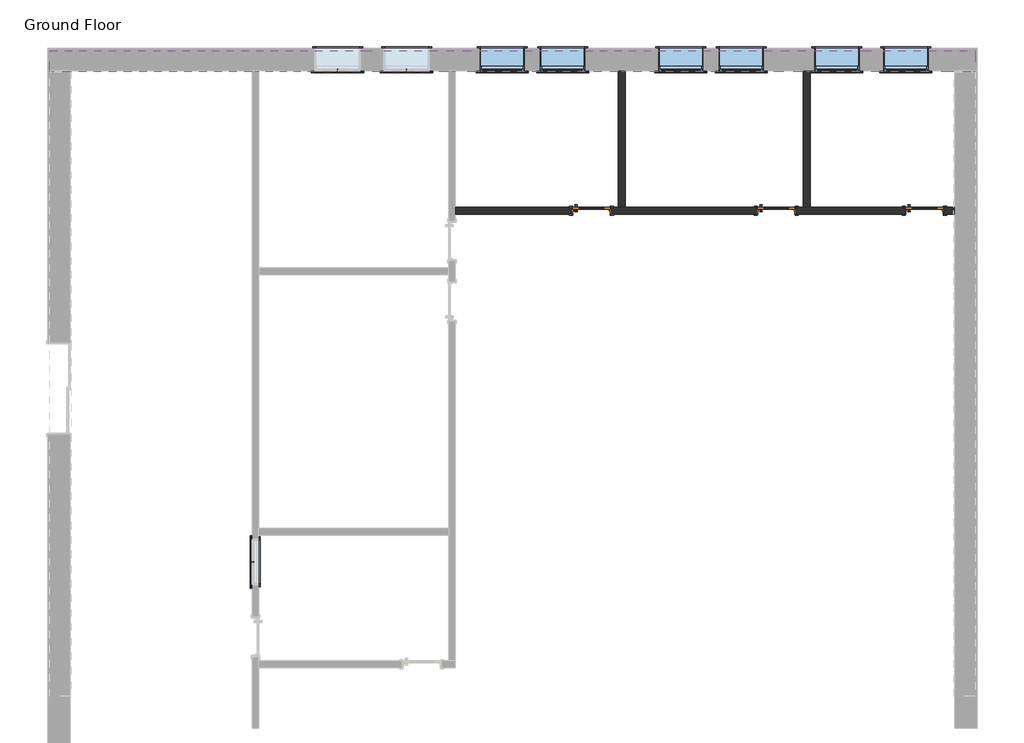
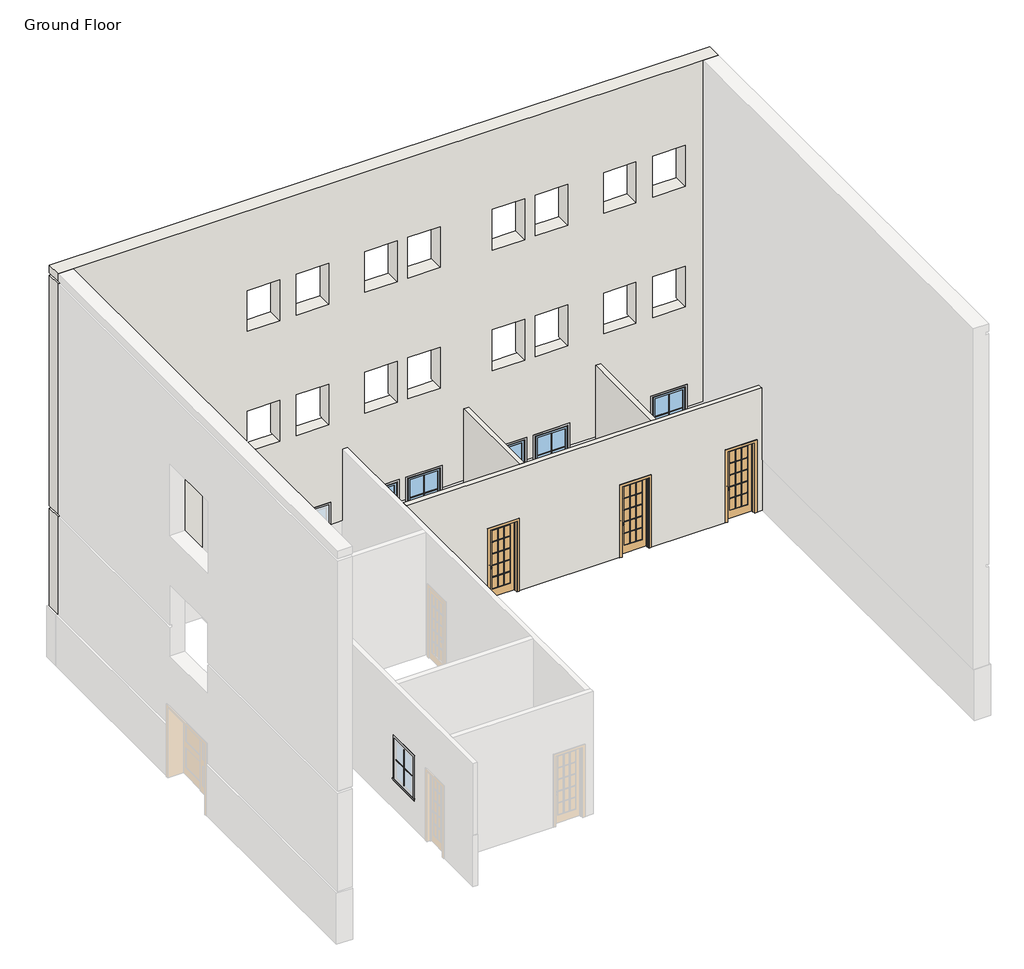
# One storey, part 2 of 2: 27 proxies, 6 windows, 4 walls, 3 doors.
"""IFC4 building model written with IfcOpenShell, lengths in millimetres."""

from ifc_helpers import new_model, si_unit, frame, origin, place, context, project, spatial, polyline, outline, extrude, faceted_brep, transform, mapped, element, save
from components import muntin_pattern_2x2_muntin_pattern_2x2_49331bd8, muntin_pattern_2x2_muntin_pattern_2x2_a8e7a107, trim_window_exterior_flat_with_sill_cdc255b3, trim_window_exterior_flat_with_sill_0ab60cae, trim_window_interior_flat_picture_frame_ab41cb78, trim_window_interior_flat_picture_frame_2efe6088, m_door_interior_single_full_glass_wood_750_x_2100mm_ded28596, window_awning_single_915_x_1220_66c2d390, window_awning_single_915_x_1220_806fc205

model = new_model("IFC4")

# Units and contexts
model_context = context("Model", 3, world=origin())
ifc_project = project(units=[si_unit("LENGTHUNIT", "METRE", prefix="MILLI")], contexts=[model_context])

# Site, building, storey
site = spatial("IfcSite", under=ifc_project)
building = spatial("IfcBuilding", under=site)
storey = spatial("IfcBuildingStorey", under=building, Name="Ground Floor", Elevation=0.0)

# Proxies
placement = place(None, origin())
muntin_pattern_2x2_muntin_pattern_2x2_shape = muntin_pattern_2x2_muntin_pattern_2x2_49331bd8(model_context)
element("IfcBuildingElementProxy", 1, Name="Muntin Pattern_2x2 : Muntin Pattern_2x2", ObjectType="Muntin Pattern_2x2 : Muntin Pattern_2x2", at=placement, inside=storey, context=model_context, shape_type="MappedRepresentation", body=[
    mapped(muntin_pattern_2x2_muntin_pattern_2x2_shape, transform((-13370.5350037, -4799.4136534, 984.25), x_axis=(0.0, 1.0, 0.0), y_axis=(-1.0, 0.0, 0.0), z_axis=(0.0, 0.0, 1.0))),
])
element("IfcBuildingElementProxy", 2, Name="Muntin Pattern_2x2 : Muntin Pattern_2x2", ObjectType="Muntin Pattern_2x2 : Muntin Pattern_2x2", at=placement, inside=storey, context=model_context, shape_type="MappedRepresentation", body=[
    mapped(muntin_pattern_2x2_muntin_pattern_2x2_shape, transform((-1590.3100037, 5107.7613466, 984.25), x_axis=(-1.0, 0.0, 0.0), y_axis=(0.0, -1.0, 0.0), z_axis=(0.0, 0.0, 1.0))),
])
element("IfcBuildingElementProxy", 3, Name="Muntin Pattern_2x2 : Muntin Pattern_2x2", ObjectType="Muntin Pattern_2x2 : Muntin Pattern_2x2", at=placement, inside=storey, context=model_context, shape_type="MappedRepresentation", body=[
    mapped(muntin_pattern_2x2_muntin_pattern_2x2_shape, transform((-198.934993, 5107.7613466, 984.25), x_axis=(-1.0, 0.0, 0.0), y_axis=(0.0, -1.0, 0.0), z_axis=(0.0, 0.0, 1.0))),
])
element("IfcBuildingElementProxy", 4, Name="Muntin Pattern_2x2 : Muntin Pattern_2x2", ObjectType="Muntin Pattern_2x2 : Muntin Pattern_2x2", at=placement, inside=storey, context=model_context, shape_type="MappedRepresentation", body=[
    mapped(muntin_pattern_2x2_muntin_pattern_2x2_shape, transform((-3517.3100037, 5107.7613466, 984.25), x_axis=(-1.0, 0.0, 0.0), y_axis=(0.0, -1.0, 0.0), z_axis=(0.0, 0.0, 1.0))),
])
element("IfcBuildingElementProxy", 5, Name="Muntin Pattern_2x2 : Muntin Pattern_2x2", ObjectType="Muntin Pattern_2x2 : Muntin Pattern_2x2", at=placement, inside=storey, context=model_context, shape_type="MappedRepresentation", body=[
    mapped(muntin_pattern_2x2_muntin_pattern_2x2_shape, transform((-4736.5100037, 5107.7613466, 984.25), x_axis=(-1.0, 0.0, 0.0), y_axis=(0.0, -1.0, 0.0), z_axis=(0.0, 0.0, 1.0))),
])
muntin_pattern_2x2_muntin_pattern_2x2_2_shape = muntin_pattern_2x2_muntin_pattern_2x2_a8e7a107(model_context)
element("IfcBuildingElementProxy", 6, Name="Muntin Pattern_2x2 : Muntin Pattern_2x2", ObjectType="Muntin Pattern_2x2 : Muntin Pattern_2x2", at=placement, inside=storey, context=model_context, shape_type="MappedRepresentation", body=[
    mapped(muntin_pattern_2x2_muntin_pattern_2x2_2_shape, transform((-10263.2100037, 5107.7613466, 984.25), x_axis=(1.0, 0.0, 0.0), y_axis=(0.0, 1.0, 0.0), z_axis=(0.0, 0.0, 1.0))),
])
element("IfcBuildingElementProxy", 7, Name="Muntin Pattern_2x2 : Muntin Pattern_2x2", ObjectType="Muntin Pattern_2x2 : Muntin Pattern_2x2", at=placement, inside=storey, context=model_context, shape_type="MappedRepresentation", body=[
    mapped(muntin_pattern_2x2_muntin_pattern_2x2_2_shape, transform((-11654.5850143, 5107.7613466, 984.25), x_axis=(1.0, 0.0, 0.0), y_axis=(0.0, 1.0, 0.0), z_axis=(0.0, 0.0, 1.0))),
])
element("IfcBuildingElementProxy", 8, Name="Muntin Pattern_2x2 : Muntin Pattern_2x2", ObjectType="Muntin Pattern_2x2 : Muntin Pattern_2x2", at=placement, inside=storey, context=model_context, shape_type="MappedRepresentation", body=[
    mapped(muntin_pattern_2x2_muntin_pattern_2x2_2_shape, transform((-8336.2100037, 5107.7613466, 984.25), x_axis=(1.0, 0.0, 0.0), y_axis=(0.0, 1.0, 0.0), z_axis=(0.0, 0.0, 1.0))),
])
element("IfcBuildingElementProxy", 9, Name="Muntin Pattern_2x2 : Muntin Pattern_2x2", ObjectType="Muntin Pattern_2x2 : Muntin Pattern_2x2", at=placement, inside=storey, context=model_context, shape_type="MappedRepresentation", body=[
    mapped(muntin_pattern_2x2_muntin_pattern_2x2_2_shape, transform((-7117.0100037, 5107.7613466, 984.25), x_axis=(1.0, 0.0, 0.0), y_axis=(0.0, 1.0, 0.0), z_axis=(0.0, 0.0, 1.0))),
])
trim_window_exterior_flat_with_sill_shape = trim_window_exterior_flat_with_sill_cdc255b3(model_context)
element("IfcBuildingElementProxy", 10, Name="Trim-Window-Exterior-Flat : with Sill", ObjectType="Trim-Window-Exterior-Flat : with Sill", at=placement, inside=storey, context=model_context, shape_type="MappedRepresentation", body=[
    mapped(trim_window_exterior_flat_with_sill_shape, transform((-13380.0600037, -4799.4136534, 2134.4), x_axis=(0.0, -1.0, 0.0), y_axis=(0.0, 0.0, 1.0), z_axis=(-1.0, 0.0, 0.0))),
])
element("IfcBuildingElementProxy", 11, Name="Trim-Window-Exterior-Flat : with Sill", ObjectType="Trim-Window-Exterior-Flat : with Sill", at=placement, inside=storey, context=model_context, shape_type="MappedRepresentation", body=[
    mapped(trim_window_exterior_flat_with_sill_shape, transform((-1590.3100037, 5098.2363466, 2134.4), x_axis=(1.0, 0.0, 0.0), y_axis=(0.0, 0.0, 1.0), z_axis=(0.0, -1.0, 0.0))),
])
element("IfcBuildingElementProxy", 12, Name="Trim-Window-Exterior-Flat : with Sill", ObjectType="Trim-Window-Exterior-Flat : with Sill", at=placement, inside=storey, context=model_context, shape_type="MappedRepresentation", body=[
    mapped(trim_window_exterior_flat_with_sill_shape, transform((-198.934993, 5098.2363466, 2134.4), x_axis=(1.0, 0.0, 0.0), y_axis=(0.0, 0.0, 1.0), z_axis=(0.0, -1.0, 0.0))),
])
element("IfcBuildingElementProxy", 13, Name="Trim-Window-Exterior-Flat : with Sill", ObjectType="Trim-Window-Exterior-Flat : with Sill", at=placement, inside=storey, context=model_context, shape_type="MappedRepresentation", body=[
    mapped(trim_window_exterior_flat_with_sill_shape, transform((-3517.3100037, 5098.2363466, 2134.4), x_axis=(1.0, 0.0, 0.0), y_axis=(0.0, 0.0, 1.0), z_axis=(0.0, -1.0, 0.0))),
])
element("IfcBuildingElementProxy", 14, Name="Trim-Window-Exterior-Flat : with Sill", ObjectType="Trim-Window-Exterior-Flat : with Sill", at=placement, inside=storey, context=model_context, shape_type="MappedRepresentation", body=[
    mapped(trim_window_exterior_flat_with_sill_shape, transform((-4736.5100037, 5098.2363466, 2134.4), x_axis=(1.0, 0.0, 0.0), y_axis=(0.0, 0.0, 1.0), z_axis=(0.0, -1.0, 0.0))),
])
trim_window_exterior_flat_with_sill_2_shape = trim_window_exterior_flat_with_sill_0ab60cae(model_context)
element("IfcBuildingElementProxy", 15, Name="Trim-Window-Exterior-Flat : with Sill", ObjectType="Trim-Window-Exterior-Flat : with Sill", at=placement, inside=storey, context=model_context, shape_type="MappedRepresentation", body=[
    mapped(trim_window_exterior_flat_with_sill_2_shape, transform((-10263.2100037, 5098.2363466, 2134.4), x_axis=(-1.0, 0.0, 0.0), y_axis=(0.0, 0.0, -1.0), z_axis=(0.0, -1.0, 0.0))),
])
element("IfcBuildingElementProxy", 16, Name="Trim-Window-Exterior-Flat : with Sill", ObjectType="Trim-Window-Exterior-Flat : with Sill", at=placement, inside=storey, context=model_context, shape_type="MappedRepresentation", body=[
    mapped(trim_window_exterior_flat_with_sill_2_shape, transform((-11654.5850143, 5098.2363466, 2134.4), x_axis=(-1.0, 0.0, 0.0), y_axis=(0.0, 0.0, -1.0), z_axis=(0.0, -1.0, 0.0))),
])
element("IfcBuildingElementProxy", 17, Name="Trim-Window-Exterior-Flat : with Sill", ObjectType="Trim-Window-Exterior-Flat : with Sill", at=placement, inside=storey, context=model_context, shape_type="MappedRepresentation", body=[
    mapped(trim_window_exterior_flat_with_sill_2_shape, transform((-8336.2100037, 5098.2363466, 2134.4), x_axis=(-1.0, 0.0, 0.0), y_axis=(0.0, 0.0, -1.0), z_axis=(0.0, -1.0, 0.0))),
])
element("IfcBuildingElementProxy", 18, Name="Trim-Window-Exterior-Flat : with Sill", ObjectType="Trim-Window-Exterior-Flat : with Sill", at=placement, inside=storey, context=model_context, shape_type="MappedRepresentation", body=[
    mapped(trim_window_exterior_flat_with_sill_2_shape, transform((-7117.0100037, 5098.2363466, 2134.4), x_axis=(-1.0, 0.0, 0.0), y_axis=(0.0, 0.0, -1.0), z_axis=(0.0, -1.0, 0.0))),
])
trim_window_interior_flat_picture_frame_shape = trim_window_interior_flat_picture_frame_ab41cb78(model_context)
element("IfcBuildingElementProxy", 19, Name="Trim-Window-Interior-Flat : Picture Frame", ObjectType="Trim-Window-Interior-Flat : Picture Frame", at=placement, inside=storey, context=model_context, shape_type="MappedRepresentation", body=[
    mapped(trim_window_interior_flat_picture_frame_shape, transform((-13241.5600037, -4799.4136534, 2134.4), x_axis=(0.0, 1.0, 0.0), y_axis=(0.0, 0.0, 1.0), z_axis=(1.0, 0.0, 0.0))),
])
element("IfcBuildingElementProxy", 20, Name="Trim-Window-Interior-Flat : Picture Frame", ObjectType="Trim-Window-Interior-Flat : Picture Frame", at=placement, inside=storey, context=model_context, shape_type="MappedRepresentation", body=[
    mapped(trim_window_interior_flat_picture_frame_shape, transform((-1590.3100037, 5558.2363466, 2134.4), x_axis=(-1.0, 0.0, 0.0), y_axis=(0.0, 0.0, 1.0), z_axis=(0.0, 1.0, 0.0))),
])
element("IfcBuildingElementProxy", 21, Name="Trim-Window-Interior-Flat : Picture Frame", ObjectType="Trim-Window-Interior-Flat : Picture Frame", at=placement, inside=storey, context=model_context, shape_type="MappedRepresentation", body=[
    mapped(trim_window_interior_flat_picture_frame_shape, transform((-198.934993, 5558.2363466, 2134.4), x_axis=(-1.0, 0.0, 0.0), y_axis=(0.0, 0.0, 1.0), z_axis=(0.0, 1.0, 0.0))),
])
element("IfcBuildingElementProxy", 22, Name="Trim-Window-Interior-Flat : Picture Frame", ObjectType="Trim-Window-Interior-Flat : Picture Frame", at=placement, inside=storey, context=model_context, shape_type="MappedRepresentation", body=[
    mapped(trim_window_interior_flat_picture_frame_shape, transform((-3517.3100037, 5558.2363466, 2134.4), x_axis=(-1.0, 0.0, 0.0), y_axis=(0.0, 0.0, 1.0), z_axis=(0.0, 1.0, 0.0))),
])
element("IfcBuildingElementProxy", 23, Name="Trim-Window-Interior-Flat : Picture Frame", ObjectType="Trim-Window-Interior-Flat : Picture Frame", at=placement, inside=storey, context=model_context, shape_type="MappedRepresentation", body=[
    mapped(trim_window_interior_flat_picture_frame_shape, transform((-4736.5100037, 5558.2363466, 2134.4), x_axis=(-1.0, 0.0, 0.0), y_axis=(0.0, 0.0, 1.0), z_axis=(0.0, 1.0, 0.0))),
])
trim_window_interior_flat_picture_frame_2_shape = trim_window_interior_flat_picture_frame_2efe6088(model_context)
element("IfcBuildingElementProxy", 24, Name="Trim-Window-Interior-Flat : Picture Frame", ObjectType="Trim-Window-Interior-Flat : Picture Frame", at=placement, inside=storey, context=model_context, shape_type="MappedRepresentation", body=[
    mapped(trim_window_interior_flat_picture_frame_2_shape, transform((-10263.2100037, 5558.2363466, 2134.4), x_axis=(1.0, 0.0, 0.0), y_axis=(0.0, 0.0, -1.0), z_axis=(0.0, 1.0, 0.0))),
])
element("IfcBuildingElementProxy", 25, Name="Trim-Window-Interior-Flat : Picture Frame", ObjectType="Trim-Window-Interior-Flat : Picture Frame", at=placement, inside=storey, context=model_context, shape_type="MappedRepresentation", body=[
    mapped(trim_window_interior_flat_picture_frame_2_shape, transform((-11654.5850143, 5558.2363466, 2134.4), x_axis=(1.0, 0.0, 0.0), y_axis=(0.0, 0.0, -1.0), z_axis=(0.0, 1.0, 0.0))),
])
element("IfcBuildingElementProxy", 26, Name="Trim-Window-Interior-Flat : Picture Frame", ObjectType="Trim-Window-Interior-Flat : Picture Frame", at=placement, inside=storey, context=model_context, shape_type="MappedRepresentation", body=[
    mapped(trim_window_interior_flat_picture_frame_2_shape, transform((-8336.2100037, 5558.2363466, 2134.4), x_axis=(1.0, 0.0, 0.0), y_axis=(0.0, 0.0, -1.0), z_axis=(0.0, 1.0, 0.0))),
])
element("IfcBuildingElementProxy", 27, Name="Trim-Window-Interior-Flat : Picture Frame", ObjectType="Trim-Window-Interior-Flat : Picture Frame", at=placement, inside=storey, context=model_context, shape_type="MappedRepresentation", body=[
    mapped(trim_window_interior_flat_picture_frame_2_shape, transform((-7117.0100037, 5558.2363466, 2134.4), x_axis=(1.0, 0.0, 0.0), y_axis=(0.0, 0.0, -1.0), z_axis=(0.0, 1.0, 0.0))),
])

# Doors
m_door_interior_single_full_glass_wood_750_x_2100mm_shape = m_door_interior_single_full_glass_wood_750_x_2100mm_ded28596(model_context)
element("IfcDoor", 28, ObjectType="M_Door-Interior-Single-Full Glass-Wood : 750 x 2100mm", at=placement, inside=storey, context=model_context, shape_type="MappedRepresentation", body=[
    mapped(m_door_interior_single_full_glass_wood_750_x_2100mm_shape, transform((-6536.3600037, 2283.4113466, 0.0), x_axis=(1.0, 0.0, 0.0), y_axis=(0.0, 1.0, 0.0), z_axis=(0.0, 0.0, 1.0))),
])
element("IfcDoor", 29, ObjectType="M_Door-Interior-Single-Full Glass-Wood : 750 x 2100mm", at=placement, inside=storey, context=model_context, shape_type="MappedRepresentation", body=[
    mapped(m_door_interior_single_full_glass_wood_750_x_2100mm_shape, transform((-2809.5100037, 2283.4113466, 0.0), x_axis=(1.0, 0.0, 0.0), y_axis=(0.0, 1.0, 0.0), z_axis=(0.0, 0.0, 1.0))),
])
element("IfcDoor", 30, ObjectType="M_Door-Interior-Single-Full Glass-Wood : 750 x 2100mm", at=placement, inside=storey, context=model_context, shape_type="MappedRepresentation", body=[
    mapped(m_door_interior_single_full_glass_wood_750_x_2100mm_shape, transform((175.5899963, 2283.4113466, 0.0), x_axis=(1.0, 0.0, 0.0), y_axis=(0.0, 1.0, 0.0), z_axis=(0.0, 0.0, 1.0))),
])

# Walls
element("IfcWall", 31, ObjectType="Exterior - Render on Brick on Block", at=placement, inside=storey, context=model_context, shape_type="Brep", body=[
    faceted_brep([(1196.1899963, 5080.2363466, 11700.0), (767.1899963, 5080.2363466, 11700.0), (-17024.8100037, 5080.2363466, 11700.0), (-17453.8100037, 5080.2363466, 11700.0), (-17453.8100037, 5080.2363466, 11475.0), (-17378.8100037, 5080.2363466, 11475.0), (-17378.8100037, 5080.2363466, 11400.0), (-17453.8100037, 5080.2363466, 11400.0), (-17453.8100037, 5080.2363466, 4524.0), (-17378.8100037, 5080.2363466, 4524.0), (-17378.8100037, 5080.2363466, 4449.0), (-17453.8100037, 5080.2363466, 4449.0), (-17453.8100037, 5080.2363466, 1524.0), (-17024.8100037, 5080.2363466, 1524.0), (-13380.0600037, 5080.2363466, 1524.0), (-13241.5600037, 5080.2363466, 1524.0), (-12112.0850143, 5080.2363466, 1524.0), (-12112.0850143, 5080.2363466, 2134.4), (-11197.0850143, 5080.2363466, 2134.4), (-11197.0850143, 5080.2363466, 1524.0), (-10720.7100037, 5080.2363466, 1524.0), (-10720.7100037, 5080.2363466, 2134.4), (-9805.7100037, 5080.2363466, 2134.4), (-9805.7100037, 5080.2363466, 1524.0), (-9418.0600037, 5080.2363466, 1524.0), (-9279.5600037, 5080.2363466, 1524.0), (-8793.7100037, 5080.2363466, 1524.0), (-8793.7100037, 5080.2363466, 2134.4), (-7878.7100037, 5080.2363466, 2134.4), (-7878.7100037, 5080.2363466, 1524.0), (-7574.5100037, 5080.2363466, 1524.0), (-7574.5100037, 5080.2363466, 2134.4), (-6659.5100037, 5080.2363466, 2134.4), (-6659.5100037, 5080.2363466, 1524.0), (-5996.0100037, 5080.2363466, 1524.0), (-5857.5100037, 5080.2363466, 1524.0), (-5194.0100037, 5080.2363466, 1524.0), (-5194.0100037, 5080.2363466, 2134.4), (-4279.0100037, 5080.2363466, 2134.4), (-4279.0100037, 5080.2363466, 1524.0), (-3974.8100037, 5080.2363466, 1524.0), (-3974.8100037, 5080.2363466, 2134.4), (-3059.8100037, 5080.2363466, 2134.4), (-3059.8100037, 5080.2363466, 1524.0), (-2269.1600037, 5080.2363466, 1524.0), (-2130.6600037, 5080.2363466, 1524.0), (-2047.8100037, 5080.2363466, 1524.0), (-2047.8100037, 5080.2363466, 2134.4), (-1132.8100037, 5080.2363466, 2134.4), (-1132.8100037, 5080.2363466, 1524.0), (-656.434993, 5080.2363466, 1524.0), (-656.434993, 5080.2363466, 2134.4), (258.565007, 5080.2363466, 2134.4), (258.565007, 5080.2363466, 1524.0), (767.1899963, 5080.2363466, 1524.0), (1196.1899963, 5080.2363466, 1524.0), (1196.1899963, 5080.2363466, 4449.0), (1121.1899963, 5080.2363466, 4449.0), (1121.1899963, 5080.2363466, 4524.0), (1196.1899963, 5080.2363466, 4524.0), (1196.1899963, 5080.2363466, 11400.0), (1121.1899963, 5080.2363466, 11400.0), (1121.1899963, 5080.2363466, 11475.0), (1196.1899963, 5080.2363466, 11475.0), (-6659.5100037, 5080.2363466, 5734.4), (-6659.5100037, 5080.2363466, 4514.4), (-7574.5100037, 5080.2363466, 4514.4), (-7574.5100037, 5080.2363466, 5734.4), (-7878.7100037, 5080.2363466, 5734.4), (-7878.7100037, 5080.2363466, 4514.4), (-8793.7100037, 5080.2363466, 4514.4), (-8793.7100037, 5080.2363466, 5734.4), (-11197.0850143, 5080.2363466, 5734.4), (-11197.0850143, 5080.2363466, 4514.4), (-12112.0850143, 5080.2363466, 4514.4), (-12112.0850143, 5080.2363466, 5734.4), (-9805.7100037, 5080.2363466, 5734.4), (-9805.7100037, 5080.2363466, 4514.4), (-10720.7100037, 5080.2363466, 4514.4), (-10720.7100037, 5080.2363466, 5734.4), (-5194.0100037, 5080.2363466, 4514.4), (-5194.0100037, 5080.2363466, 5734.4), (-4279.0100037, 5080.2363466, 5734.4), (-4279.0100037, 5080.2363466, 4514.4), (-3974.8100037, 5080.2363466, 4514.4), (-3974.8100037, 5080.2363466, 5734.4), (-3059.8100037, 5080.2363466, 5734.4), (-3059.8100037, 5080.2363466, 4514.4), (-656.434993, 5080.2363466, 4514.4), (-656.434993, 5080.2363466, 5734.4), (258.565007, 5080.2363466, 5734.4), (258.565007, 5080.2363466, 4514.4), (-2047.8100037, 5080.2363466, 4514.4), (-2047.8100037, 5080.2363466, 5734.4), (-1132.8100037, 5080.2363466, 5734.4), (-1132.8100037, 5080.2363466, 4514.4), (-6659.5100037, 5080.2363466, 9334.4), (-6659.5100037, 5080.2363466, 8114.4), (-7574.5100037, 5080.2363466, 8114.4), (-7574.5100037, 5080.2363466, 9334.4), (-7878.7100037, 5080.2363466, 9334.4), (-7878.7100037, 5080.2363466, 8114.4), (-8793.7100037, 5080.2363466, 8114.4), (-8793.7100037, 5080.2363466, 9334.4), (-11197.0850143, 5080.2363466, 9334.4), (-11197.0850143, 5080.2363466, 8114.4), (-12112.0850143, 5080.2363466, 8114.4), (-12112.0850143, 5080.2363466, 9334.4), (-9805.7100037, 5080.2363466, 9334.4), (-9805.7100037, 5080.2363466, 8114.4), (-10720.7100037, 5080.2363466, 8114.4), (-10720.7100037, 5080.2363466, 9334.4), (-5194.0100037, 5080.2363466, 8114.4), (-5194.0100037, 5080.2363466, 9334.4), (-4279.0100037, 5080.2363466, 9334.4), (-4279.0100037, 5080.2363466, 8114.4), (-3974.8100037, 5080.2363466, 8114.4), (-3974.8100037, 5080.2363466, 9334.4), (-3059.8100037, 5080.2363466, 9334.4), (-3059.8100037, 5080.2363466, 8114.4), (-656.434993, 5080.2363466, 8114.4), (-656.434993, 5080.2363466, 9334.4), (258.565007, 5080.2363466, 9334.4), (258.565007, 5080.2363466, 8114.4), (-2047.8100037, 5080.2363466, 8114.4), (-2047.8100037, 5080.2363466, 9334.4), (-1132.8100037, 5080.2363466, 9334.4), (-1132.8100037, 5080.2363466, 8114.4), (-17453.8100037, 5509.2363466, 11700.0), (1196.1899963, 5509.2363466, 11700.0), (1196.1899963, 5509.2363466, 11475.0), (-17453.8100037, 5509.2363466, 11475.0), (-2047.8100037, 5509.2363466, 2134.4), (-2047.8100037, 5509.2363466, 1524.0), (-3059.8100037, 5509.2363466, 1524.0), (-3059.8100037, 5509.2363466, 2134.4), (-3974.8100037, 5509.2363466, 2134.4), (-3974.8100037, 5509.2363466, 1524.0), (-4279.0100037, 5509.2363466, 1524.0), (-4279.0100037, 5509.2363466, 2134.4), (-5194.0100037, 5509.2363466, 2134.4), (-5194.0100037, 5509.2363466, 1524.0), (-6659.5100037, 5509.2363466, 1524.0), (-6659.5100037, 5509.2363466, 2134.4), (-7574.5100037, 5509.2363466, 2134.4), (-7574.5100037, 5509.2363466, 1524.0), (-7878.7100037, 5509.2363466, 1524.0), (-7878.7100037, 5509.2363466, 2134.4), (-8793.7100037, 5509.2363466, 2134.4), (-8793.7100037, 5509.2363466, 1524.0), (-9805.7100037, 5509.2363466, 1524.0), (-9805.7100037, 5509.2363466, 2134.4), (-10720.7100037, 5509.2363466, 2134.4), (-10720.7100037, 5509.2363466, 1524.0), (-11197.0850143, 5509.2363466, 1524.0), (-11197.0850143, 5509.2363466, 2134.4), (-12112.0850143, 5509.2363466, 2134.4), (-12112.0850143, 5509.2363466, 1524.0), (-17453.8100037, 5509.2363466, 1524.0), (-17453.8100037, 5509.2363466, 4449.0), (1196.1899963, 5509.2363466, 4449.0), (1196.1899963, 5509.2363466, 1524.0), (258.565007, 5509.2363466, 1524.0), (258.565007, 5509.2363466, 2134.4), (-656.434993, 5509.2363466, 2134.4), (-656.434993, 5509.2363466, 1524.0), (-1132.8100037, 5509.2363466, 1524.0), (-1132.8100037, 5509.2363466, 2134.4), (1196.1899963, 5509.2363466, 4524.0), (258.565007, 5509.2363466, 4524.0), (258.565007, 5509.2363466, 5734.4), (-656.434993, 5509.2363466, 5734.4), (-656.434993, 5509.2363466, 4524.0), (-1132.8100037, 5509.2363466, 4524.0), (-1132.8100037, 5509.2363466, 5734.4), (-2047.8100037, 5509.2363466, 5734.4), (-2047.8100037, 5509.2363466, 4524.0), (-3059.8100037, 5509.2363466, 4524.0), (-3059.8100037, 5509.2363466, 5734.4), (-3974.8100037, 5509.2363466, 5734.4), (-3974.8100037, 5509.2363466, 4524.0), (-4279.0100037, 5509.2363466, 4524.0), (-4279.0100037, 5509.2363466, 5734.4), (-5194.0100037, 5509.2363466, 5734.4), (-5194.0100037, 5509.2363466, 4524.0), (-6659.5100037, 5509.2363466, 4524.0), (-6659.5100037, 5509.2363466, 5734.4), (-7574.5100037, 5509.2363466, 5734.4), (-7574.5100037, 5509.2363466, 4524.0), (-7878.7100037, 5509.2363466, 4524.0), (-7878.7100037, 5509.2363466, 5734.4), (-8793.7100037, 5509.2363466, 5734.4), (-8793.7100037, 5509.2363466, 4524.0), (-9805.7100037, 5509.2363466, 4524.0), (-9805.7100037, 5509.2363466, 5734.4), (-10720.7100037, 5509.2363466, 5734.4), (-10720.7100037, 5509.2363466, 4524.0), (-11197.0850143, 5509.2363466, 4524.0), (-11197.0850143, 5509.2363466, 5734.4), (-12112.0850143, 5509.2363466, 5734.4), (-12112.0850143, 5509.2363466, 4524.0), (-17453.8100037, 5509.2363466, 4524.0), (-17453.8100037, 5509.2363466, 11400.0), (1196.1899963, 5509.2363466, 11400.0), (-6659.5100037, 5509.2363466, 8114.4), (-6659.5100037, 5509.2363466, 9334.4), (-7574.5100037, 5509.2363466, 9334.4), (-7574.5100037, 5509.2363466, 8114.4), (-7878.7100037, 5509.2363466, 8114.4), (-7878.7100037, 5509.2363466, 9334.4), (-8793.7100037, 5509.2363466, 9334.4), (-8793.7100037, 5509.2363466, 8114.4), (-11197.0850143, 5509.2363466, 8114.4), (-11197.0850143, 5509.2363466, 9334.4), (-12112.0850143, 5509.2363466, 9334.4), (-12112.0850143, 5509.2363466, 8114.4), (-9805.7100037, 5509.2363466, 8114.4), (-9805.7100037, 5509.2363466, 9334.4), (-10720.7100037, 5509.2363466, 9334.4), (-10720.7100037, 5509.2363466, 8114.4), (-5194.0100037, 5509.2363466, 9334.4), (-5194.0100037, 5509.2363466, 8114.4), (-4279.0100037, 5509.2363466, 8114.4), (-4279.0100037, 5509.2363466, 9334.4), (-3974.8100037, 5509.2363466, 9334.4), (-3974.8100037, 5509.2363466, 8114.4), (-3059.8100037, 5509.2363466, 8114.4), (-3059.8100037, 5509.2363466, 9334.4), (-656.434993, 5509.2363466, 9334.4), (-656.434993, 5509.2363466, 8114.4), (258.565007, 5509.2363466, 8114.4), (258.565007, 5509.2363466, 9334.4), (-2047.8100037, 5509.2363466, 9334.4), (-2047.8100037, 5509.2363466, 8114.4), (-1132.8100037, 5509.2363466, 8114.4), (-1132.8100037, 5509.2363466, 9334.4), (1196.1899963, 5484.2363466, 1524.0), (258.565007, 5098.2363466, 1524.0), (258.565007, 5484.2363466, 1524.0), (-17453.8100037, 5484.2363466, 1524.0), (-12112.0850143, 5484.2363466, 1524.0), (-12112.0850143, 5098.2363466, 1524.0), (-2047.8100037, 5484.2363466, 1524.0), (-2047.8100037, 5098.2363466, 1524.0), (-3059.8100037, 5098.2363466, 1524.0), (-3059.8100037, 5484.2363466, 1524.0), (-1132.8100037, 5098.2363466, 1524.0), (-1132.8100037, 5484.2363466, 1524.0), (-656.434993, 5484.2363466, 1524.0), (-656.434993, 5098.2363466, 1524.0), (-3974.8100037, 5484.2363466, 1524.0), (-3974.8100037, 5098.2363466, 1524.0), (-4279.0100037, 5098.2363466, 1524.0), (-4279.0100037, 5484.2363466, 1524.0), (-5194.0100037, 5484.2363466, 1524.0), (-5194.0100037, 5098.2363466, 1524.0), (-6659.5100037, 5098.2363466, 1524.0), (-6659.5100037, 5484.2363466, 1524.0), (-7574.5100037, 5484.2363466, 1524.0), (-7574.5100037, 5098.2363466, 1524.0), (-7878.7100037, 5098.2363466, 1524.0), (-7878.7100037, 5484.2363466, 1524.0), (-8793.7100037, 5484.2363466, 1524.0), (-8793.7100037, 5098.2363466, 1524.0), (-9805.7100037, 5098.2363466, 1524.0), (-9805.7100037, 5484.2363466, 1524.0), (-11197.0850143, 5098.2363466, 1524.0), (-11197.0850143, 5484.2363466, 1524.0), (-10720.7100037, 5484.2363466, 1524.0), (-10720.7100037, 5098.2363466, 1524.0), (-17378.8100037, 5434.2363466, 11475.0), (1121.1899963, 5434.2363466, 11475.0), (1121.1899963, 5434.2363466, 11400.0), (-17378.8100037, 5434.2363466, 11400.0), (1121.1899963, 5434.2363466, 4524.0), (258.565007, 5434.2363466, 4524.0), (-17378.8100037, 5434.2363466, 4524.0), (-12112.0850143, 5434.2363466, 4524.0), (-7574.5100037, 5434.2363466, 4524.0), (-7878.7100037, 5434.2363466, 4524.0), (-8793.7100037, 5434.2363466, 4524.0), (-9805.7100037, 5434.2363466, 4524.0), (-10720.7100037, 5434.2363466, 4524.0), (-11197.0850143, 5434.2363466, 4524.0), (-5194.0100037, 5434.2363466, 4524.0), (-6659.5100037, 5434.2363466, 4524.0), (-3974.8100037, 5434.2363466, 4524.0), (-4279.0100037, 5434.2363466, 4524.0), (-2047.8100037, 5434.2363466, 4524.0), (-3059.8100037, 5434.2363466, 4524.0), (-656.434993, 5434.2363466, 4524.0), (-1132.8100037, 5434.2363466, 4524.0), (-17378.8100037, 5434.2363466, 4449.0), (1121.1899963, 5434.2363466, 4449.0), (-12112.0850143, 5434.2363466, 4514.4), (-11197.0850143, 5434.2363466, 4514.4), (-10720.7100037, 5434.2363466, 4514.4), (-9805.7100037, 5434.2363466, 4514.4), (-8793.7100037, 5434.2363466, 4514.4), (-7878.7100037, 5434.2363466, 4514.4), (-7574.5100037, 5434.2363466, 4514.4), (-6659.5100037, 5434.2363466, 4514.4), (-5194.0100037, 5434.2363466, 4514.4), (-4279.0100037, 5434.2363466, 4514.4), (-3974.8100037, 5434.2363466, 4514.4), (-3059.8100037, 5434.2363466, 4514.4), (-2047.8100037, 5434.2363466, 4514.4), (-1132.8100037, 5434.2363466, 4514.4), (-656.434993, 5434.2363466, 4514.4), (258.565007, 5434.2363466, 4514.4)], [[[0, 1, 2, 3, 4, 5, 6, 7, 8, 9, 10, 11, 12, 13, 14, 15, 16, 17, 18, 19, 20, 21, 22, 23, 24, 25, 26, 27, 28, 29, 30, 31, 32, 33, 34, 35, 36, 37, 38, 39, 40, 41, 42, 43, 44, 45, 46, 47, 48, 49, 50, 51, 52, 53, 54, 55, 56, 57, 58, 59, 60, 61, 62, 63], [64, 65, 66, 67], [68, 69, 70, 71], [72, 73, 74, 75], [76, 77, 78, 79], [80, 81, 82, 83], [84, 85, 86, 87], [88, 89, 90, 91], [92, 93, 94, 95], [96, 97, 98, 99], [100, 101, 102, 103], [104, 105, 106, 107], [108, 109, 110, 111], [112, 113, 114, 115], [116, 117, 118, 119], [120, 121, 122, 123], [124, 125, 126, 127]], [[128, 129, 130, 131]], [[132, 133, 134, 135, 136, 137, 138, 139, 140, 141, 142, 143, 144, 145, 146, 147, 148, 149, 150, 151, 152, 153, 154, 155, 156, 157, 158, 159, 160, 161, 162, 163, 164, 165, 166, 167]], [[168, 169, 170, 171, 172, 173, 174, 175, 176, 177, 178, 179, 180, 181, 182, 183, 184, 185, 186, 187, 188, 189, 190, 191, 192, 193, 194, 195, 196, 197, 198, 199, 200, 201, 202, 203], [204, 205, 206, 207], [208, 209, 210, 211], [212, 213, 214, 215], [216, 217, 218, 219], [220, 221, 222, 223], [224, 225, 226, 227], [228, 229, 230, 231], [232, 233, 234, 235]], [[3, 2, 1, 0, 129, 128]], [[236, 55, 54, 53, 237, 238]], [[12, 239, 240, 241, 16, 15, 14, 13]], [[242, 243, 46, 45, 44, 43, 244, 245]], [[49, 246, 247, 248, 249, 50]], [[250, 251, 40, 39, 252, 253]], [[254, 255, 36, 35, 34, 33, 256, 257]], [[258, 259, 30, 29, 260, 261]], [[262, 263, 26, 25, 24, 23, 264, 265]], [[19, 266, 267, 268, 269, 20]], [[270, 271, 272, 273]], [[3, 128, 131, 4]], [[239, 12, 11, 159, 158]], [[201, 8, 7, 202]], [[129, 0, 63, 130]], [[55, 236, 161, 160, 56]], [[59, 168, 203, 60]], [[239, 158, 157, 240]], [[161, 236, 238, 162]], [[133, 242, 245, 134]], [[247, 166, 165, 248]], [[137, 250, 253, 138]], [[141, 254, 257, 142]], [[145, 258, 261, 146]], [[149, 262, 265, 150]], [[267, 154, 153, 268]], [[271, 270, 5, 4, 131, 130, 63, 62]], [[273, 272, 61, 60, 203, 202, 7, 6]], [[270, 273, 6, 5]], [[272, 271, 62, 61]], [[132, 47, 46, 243, 242, 133]], [[48, 167, 166, 247, 246, 49]], [[47, 132, 167, 48]], [[164, 51, 50, 249, 248, 165]], [[52, 163, 162, 238, 237, 53]], [[51, 164, 163, 52]], [[136, 41, 40, 251, 250, 137]], [[42, 135, 134, 245, 244, 43]], [[41, 136, 135, 42]], [[140, 37, 36, 255, 254, 141]], [[38, 139, 138, 253, 252, 39]], [[37, 140, 139, 38]], [[32, 143, 142, 257, 256, 33]], [[144, 31, 30, 259, 258, 145]], [[143, 32, 31, 144]], [[28, 147, 146, 261, 260, 29]], [[148, 27, 26, 263, 262, 149]], [[147, 28, 27, 148]], [[18, 155, 154, 267, 266, 19]], [[156, 17, 16, 241, 240, 157]], [[155, 18, 17, 156]], [[22, 151, 150, 265, 264, 23]], [[152, 21, 20, 269, 268, 153]], [[151, 22, 21, 152]], [[58, 274, 275, 169, 168, 59]], [[276, 9, 8, 201, 200, 277]], [[278, 279, 189, 188]], [[280, 281, 193, 192]], [[282, 283, 197, 196]], [[284, 285, 185, 184]], [[286, 287, 181, 180]], [[288, 289, 177, 176]], [[290, 291, 173, 172]], [[292, 293, 57, 56, 160, 159, 11, 10]], [[276, 292, 10, 9]], [[293, 292, 276, 277, 294, 295, 283, 282, 296, 297, 281, 280, 298, 299, 279, 278, 300, 301, 285, 284, 302, 303, 287, 286, 304, 305, 289, 288, 306, 307, 291, 290, 308, 309, 275, 274]], [[293, 274, 58, 57]], [[64, 186, 185, 285, 301, 65]], [[66, 65, 301, 300]], [[187, 67, 66, 300, 278, 188]], [[186, 64, 67, 187]], [[68, 190, 189, 279, 299, 69]], [[70, 69, 299, 298]], [[191, 71, 70, 298, 280, 192]], [[190, 68, 71, 191]], [[72, 198, 197, 283, 295, 73]], [[74, 73, 295, 294]], [[199, 75, 74, 294, 277, 200]], [[198, 72, 75, 199]], [[76, 194, 193, 281, 297, 77]], [[78, 77, 297, 296]], [[195, 79, 78, 296, 282, 196]], [[194, 76, 79, 195]], [[183, 81, 80, 302, 284, 184]], [[80, 83, 303, 302]], [[82, 182, 181, 287, 303, 83]], [[81, 183, 182, 82]], [[179, 85, 84, 304, 286, 180]], [[84, 87, 305, 304]], [[86, 178, 177, 289, 305, 87]], [[85, 179, 178, 86]], [[171, 89, 88, 308, 290, 172]], [[88, 91, 309, 308]], [[90, 170, 169, 275, 309, 91]], [[89, 171, 170, 90]], [[175, 93, 92, 306, 288, 176]], [[92, 95, 307, 306]], [[94, 174, 173, 291, 307, 95]], [[93, 175, 174, 94]], [[96, 205, 204, 97]], [[97, 204, 207, 98]], [[98, 207, 206, 99]], [[205, 96, 99, 206]], [[100, 209, 208, 101]], [[101, 208, 211, 102]], [[102, 211, 210, 103]], [[209, 100, 103, 210]], [[104, 213, 212, 105]], [[105, 212, 215, 106]], [[106, 215, 214, 107]], [[213, 104, 107, 214]], [[108, 217, 216, 109]], [[109, 216, 219, 110]], [[110, 219, 218, 111]], [[217, 108, 111, 218]], [[220, 113, 112, 221]], [[221, 112, 115, 222]], [[222, 115, 114, 223]], [[113, 220, 223, 114]], [[224, 117, 116, 225]], [[225, 116, 119, 226]], [[226, 119, 118, 227]], [[117, 224, 227, 118]], [[228, 121, 120, 229]], [[229, 120, 123, 230]], [[230, 123, 122, 231]], [[121, 228, 231, 122]], [[232, 125, 124, 233]], [[233, 124, 127, 234]], [[234, 127, 126, 235]], [[125, 232, 235, 126]]]),
])
element("IfcWall", 32, ObjectType="Interior - 138mm Partition (1-hr)", at=placement, inside=storey, context=model_context, shape_type="Brep", body=[
    faceted_brep([(767.1899963, 2210.9863466, 3658.0), (-9279.5600037, 2210.9863466, 3658.0), (-9279.5600037, 2210.9863466, 0.0), (-6936.3600037, 2210.9863466, 0.0), (-6936.3600037, 2210.9863466, 2125.0), (-6136.3600037, 2210.9863466, 2125.0), (-6136.3600037, 2210.9863466, 0.0), (-3209.5100037, 2210.9863466, 0.0), (-3209.5100037, 2210.9863466, 2125.0), (-2409.5100037, 2210.9863466, 2125.0), (-2409.5100037, 2210.9863466, 0.0), (-224.4100037, 2210.9863466, 0.0), (-224.4100037, 2210.9863466, 2125.0), (575.5899963, 2210.9863466, 2125.0), (575.5899963, 2210.9863466, 0.0), (785.1899963, 2210.9863466, 0.0), (785.1899963, 2210.9863466, 1524.0), (767.1899963, 2210.9863466, 1524.0), (-9279.5600037, 2349.4863466, 3658.0), (-5996.0100037, 2349.4863466, 3658.0), (-5857.5100037, 2349.4863466, 3658.0), (-2269.1600037, 2349.4863466, 3658.0), (-2130.6600037, 2349.4863466, 3658.0), (767.1899963, 2349.4863466, 3658.0), (767.1899963, 2349.4863466, 1524.0), (785.1899963, 2349.4863466, 1524.0), (785.1899963, 2349.4863466, 0.0), (575.5899963, 2349.4863466, 0.0), (575.5899963, 2349.4863466, 2125.0), (-224.4100037, 2349.4863466, 2125.0), (-224.4100037, 2349.4863466, 0.0), (-2130.6600037, 2349.4863466, 0.0), (-2269.1600037, 2349.4863466, 0.0), (-2409.5100037, 2349.4863466, 0.0), (-2409.5100037, 2349.4863466, 2125.0), (-3209.5100037, 2349.4863466, 2125.0), (-3209.5100037, 2349.4863466, 0.0), (-5857.5100037, 2349.4863466, 0.0), (-5996.0100037, 2349.4863466, 0.0), (-6136.3600037, 2349.4863466, 0.0), (-6136.3600037, 2349.4863466, 2125.0), (-6936.3600037, 2349.4863466, 2125.0), (-6936.3600037, 2349.4863466, 0.0), (-9279.5600037, 2349.4863466, 0.0)], [[[0, 1, 2, 3, 4, 5, 6, 7, 8, 9, 10, 11, 12, 13, 14, 15, 16, 17]], [[18, 19, 20, 21, 22, 23, 24, 25, 26, 27, 28, 29, 30, 31, 32, 33, 34, 35, 36, 37, 38, 39, 40, 41, 42, 43]], [[2, 43, 42, 3]], [[26, 15, 14, 27]], [[6, 39, 38, 37, 36, 7]], [[10, 33, 32, 31, 30, 11]], [[1, 0, 23, 22, 21, 20, 19, 18]], [[17, 16, 25, 24]], [[16, 15, 26, 25]], [[0, 17, 24, 23]], [[2, 1, 18, 43]], [[5, 40, 39, 6]], [[40, 5, 4, 41]], [[41, 4, 3, 42]], [[9, 34, 33, 10]], [[34, 9, 8, 35]], [[35, 8, 7, 36]], [[13, 28, 27, 14]], [[28, 13, 12, 29]], [[29, 12, 11, 30]]]),
])
element("IfcWall", 33, ObjectType="Interior - 138mm Partition (1-hr)", at=placement, inside=storey, context=model_context, shape_type="SweptSolid", body=[
    extrude(outline(polyline([(5098.2363466, 0.0), (2349.4863466, 0.0), (2349.4863466, 3658.0), (5080.2363466, 3658.0), (5080.2363466, 1524.0), (5098.2363466, 1524.0), (5098.2363466, 0.0)])), frame((-5996.0100037, 0.0, 0.0), z_axis=(1.0, 0.0, 0.0), x_axis=(0.0, 1.0, 0.0)), (0.0, 0.0, 1.0), 138.5),
])
element("IfcWall", 34, ObjectType="Interior - 138mm Partition (1-hr)", at=placement, inside=storey, context=model_context, shape_type="SweptSolid", body=[
    extrude(outline(polyline([(5098.2363466, 0.0), (2349.4863466, 0.0), (2349.4863466, 3658.0), (5080.2363466, 3658.0), (5080.2363466, 1524.0), (5098.2363466, 1524.0), (5098.2363466, 0.0)])), frame((-2269.1600037, 0.0, 0.0), z_axis=(1.0, 0.0, 0.0), x_axis=(0.0, 1.0, 0.0)), (0.0, 0.0, 1.0), 138.5),
])

# Windows
window_awning_single_915_x_1220_shape = window_awning_single_915_x_1220_66c2d390(model_context)
element("IfcWindow", 35, ObjectType="Window-Awning-Single : 915 X 1220", at=placement, inside=storey, context=model_context, shape_type="MappedRepresentation", body=[
    mapped(window_awning_single_915_x_1220_shape, transform((-1590.3100037, 5328.2363466, 0.0), x_axis=(-1.0, 0.0, 0.0), y_axis=(0.0, -1.0, 0.0), z_axis=(0.0, 0.0, 1.0))),
])
element("IfcWindow", 36, ObjectType="Window-Awning-Single : 915 X 1220", at=placement, inside=storey, context=model_context, shape_type="MappedRepresentation", body=[
    mapped(window_awning_single_915_x_1220_shape, transform((-198.934993, 5328.2363466, 0.0), x_axis=(-1.0, 0.0, 0.0), y_axis=(0.0, -1.0, 0.0), z_axis=(0.0, 0.0, 1.0))),
])
element("IfcWindow", 37, ObjectType="Window-Awning-Single : 915 X 1220", at=placement, inside=storey, context=model_context, shape_type="MappedRepresentation", body=[
    mapped(window_awning_single_915_x_1220_shape, transform((-3517.3100037, 5328.2363466, 0.0), x_axis=(-1.0, 0.0, 0.0), y_axis=(0.0, -1.0, 0.0), z_axis=(0.0, 0.0, 1.0))),
])
element("IfcWindow", 38, ObjectType="Window-Awning-Single : 915 X 1220", at=placement, inside=storey, context=model_context, shape_type="MappedRepresentation", body=[
    mapped(window_awning_single_915_x_1220_shape, transform((-4736.5100037, 5328.2363466, 0.0), x_axis=(-1.0, 0.0, 0.0), y_axis=(0.0, -1.0, 0.0), z_axis=(0.0, 0.0, 1.0))),
])
window_awning_single_915_x_1220_2_shape = window_awning_single_915_x_1220_806fc205(model_context)
element("IfcWindow", 39, ObjectType="Window-Awning-Single : 915 X 1220", at=placement, inside=storey, context=model_context, shape_type="MappedRepresentation", body=[
    mapped(window_awning_single_915_x_1220_2_shape, transform((-8336.2100037, 5328.2363466, 0.0), x_axis=(1.0, 0.0, 0.0), y_axis=(0.0, 1.0, 0.0), z_axis=(0.0, 0.0, 1.0))),
])
element("IfcWindow", 40, ObjectType="Window-Awning-Single : 915 X 1220", at=placement, inside=storey, context=model_context, shape_type="MappedRepresentation", body=[
    mapped(window_awning_single_915_x_1220_2_shape, transform((-7117.0100037, 5328.2363466, 0.0), x_axis=(1.0, 0.0, 0.0), y_axis=(0.0, 1.0, 0.0), z_axis=(0.0, 0.0, 1.0))),
])

save(model, "model.ifc")
